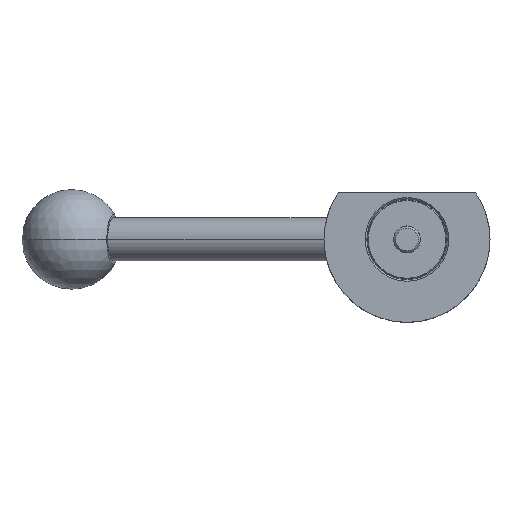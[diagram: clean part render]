
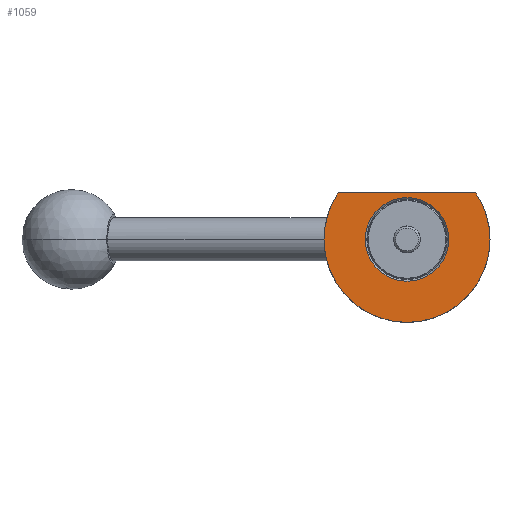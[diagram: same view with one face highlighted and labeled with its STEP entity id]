
A CAD part, front view. The second image highlights one B-rep face of the part: STEP entity #1059.
In plain terms, the highlighted planar face has unit normal (0, -1, 0).
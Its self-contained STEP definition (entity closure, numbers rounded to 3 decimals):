
#4 = DIRECTION ( 'NONE',  ( 0., 1., 0. ) ) ;
#29 = DIRECTION ( 'NONE',  ( -1., 0., 0. ) ) ;
#47 = ORIENTED_EDGE ( 'NONE', *, *, #1358, .F. ) ;
#53 = CIRCLE ( 'NONE', #433, 12.6 ) ;
#71 = PLANE ( 'NONE',  #840 ) ;
#129 = CARTESIAN_POINT ( 'NONE',  ( -20.712, -12., 14. ) ) ;
#188 = ORIENTED_EDGE ( 'NONE', *, *, #872, .F. ) ;
#206 = VERTEX_POINT ( 'NONE', #129 ) ;
#213 = DIRECTION ( 'NONE',  ( -1., 0., 0. ) ) ;
#235 = AXIS2_PLACEMENT_3D ( 'NONE', #674, #1017, #213 ) ;
#309 = CARTESIAN_POINT ( 'NONE',  ( 0., -12., 0. ) ) ;
#332 = CARTESIAN_POINT ( 'NONE',  ( -12.6, -12., 0. ) ) ;
#340 = CIRCLE ( 'NONE', #235, 25. ) ;
#391 = CARTESIAN_POINT ( 'NONE',  ( 20.712, -12., 14. ) ) ;
#415 = VERTEX_POINT ( 'NONE', #391 ) ;
#433 = AXIS2_PLACEMENT_3D ( 'NONE', #1652, #920, #728 ) ;
#448 = DIRECTION ( 'NONE',  ( -1., 0., 0. ) ) ;
#459 = EDGE_CURVE ( 'NONE', #415, #206, #1924, .T. ) ;
#575 = EDGE_CURVE ( 'NONE', #1931, #856, #53, .T. ) ;
#636 = DIRECTION ( 'NONE',  ( -1., 0., 0. ) ) ;
#658 = ORIENTED_EDGE ( 'NONE', *, *, #857, .F. ) ;
#674 = CARTESIAN_POINT ( 'NONE',  ( 0., -12., 0. ) ) ;
#694 = DIRECTION ( 'NONE',  ( 0., -1., 0. ) ) ;
#695 = CIRCLE ( 'NONE', #1444, 25. ) ;
#702 = DIRECTION ( 'NONE',  ( -1., 0., 0. ) ) ;
#707 = FACE_BOUND ( 'NONE', #1502, .T. ) ;
#710 = CARTESIAN_POINT ( 'NONE',  ( -12.6, -12., 14. ) ) ;
#728 = DIRECTION ( 'NONE',  ( -1., 0., 0. ) ) ;
#758 = CARTESIAN_POINT ( 'NONE',  ( 0., -12., 0. ) ) ;
#771 = CARTESIAN_POINT ( 'NONE',  ( 12.6, -12., 0. ) ) ;
#816 = CARTESIAN_POINT ( 'NONE',  ( -12.6, -12., 0. ) ) ;
#840 = AXIS2_PLACEMENT_3D ( 'NONE', #816, #694, #1322 ) ;
#856 = VERTEX_POINT ( 'NONE', #771 ) ;
#857 = EDGE_CURVE ( 'NONE', #2005, #206, #1703, .T. ) ;
#866 = VECTOR ( 'NONE', #702, 1000. ) ;
#872 = EDGE_CURVE ( 'NONE', #899, #2005, #695, .T. ) ;
#899 = VERTEX_POINT ( 'NONE', #1849 ) ;
#920 = DIRECTION ( 'NONE',  ( 0., 1., 0. ) ) ;
#944 = CARTESIAN_POINT ( 'NONE',  ( -25., -12., 0. ) ) ;
#1017 = DIRECTION ( 'NONE',  ( 0., 1., 0. ) ) ;
#1053 = CIRCLE ( 'NONE', #1380, 12.6 ) ;
#1059 = ADVANCED_FACE ( 'NONE', ( #707, #1471 ), #71, .T. ) ;
#1118 = DIRECTION ( 'NONE',  ( 0., 1., 0. ) ) ;
#1164 = ORIENTED_EDGE ( 'NONE', *, *, #1903, .T. ) ;
#1258 = ORIENTED_EDGE ( 'NONE', *, *, #575, .T. ) ;
#1322 = DIRECTION ( 'NONE',  ( 1., 0., 0. ) ) ;
#1358 = EDGE_CURVE ( 'NONE', #415, #899, #340, .T. ) ;
#1380 = AXIS2_PLACEMENT_3D ( 'NONE', #758, #1118, #29 ) ;
#1381 = ORIENTED_EDGE ( 'NONE', *, *, #459, .T. ) ;
#1444 = AXIS2_PLACEMENT_3D ( 'NONE', #309, #1542, #448 ) ;
#1471 = FACE_OUTER_BOUND ( 'NONE', #1887, .T. ) ;
#1502 = EDGE_LOOP ( 'NONE', ( #1164, #1258 ) ) ;
#1542 = DIRECTION ( 'NONE',  ( 0., 1., 0. ) ) ;
#1652 = CARTESIAN_POINT ( 'NONE',  ( 0., -12., 0. ) ) ;
#1684 = CARTESIAN_POINT ( 'NONE',  ( 0., -12., 0. ) ) ;
#1703 = CIRCLE ( 'NONE', #1970, 25. ) ;
#1849 = CARTESIAN_POINT ( 'NONE',  ( 25., -12., 0. ) ) ;
#1887 = EDGE_LOOP ( 'NONE', ( #47, #1381, #658, #188 ) ) ;
#1903 = EDGE_CURVE ( 'NONE', #856, #1931, #1053, .T. ) ;
#1924 = LINE ( 'NONE', #710, #866 ) ;
#1931 = VERTEX_POINT ( 'NONE', #332 ) ;
#1970 = AXIS2_PLACEMENT_3D ( 'NONE', #1684, #4, #636 ) ;
#2005 = VERTEX_POINT ( 'NONE', #944 ) ;
